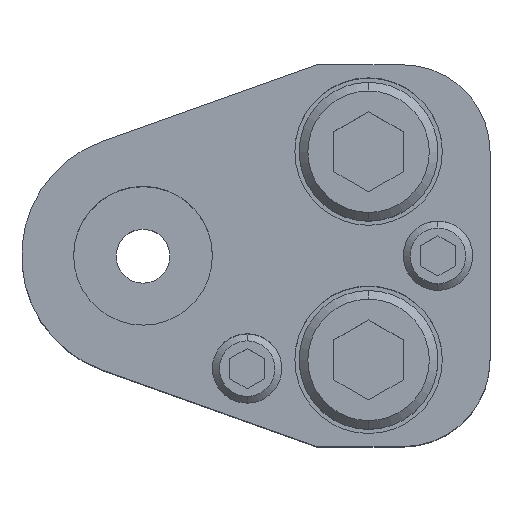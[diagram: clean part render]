
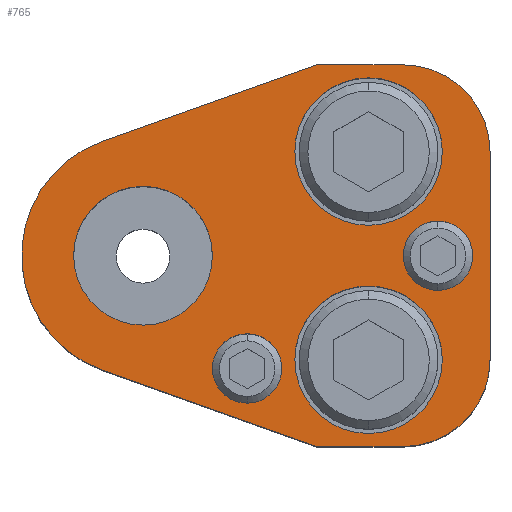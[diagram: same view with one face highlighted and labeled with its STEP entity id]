
A CAD part, top view. The second image highlights one B-rep face of the part: STEP entity #765.
In plain terms, the highlighted planar face has unit normal (0, 0, 1).
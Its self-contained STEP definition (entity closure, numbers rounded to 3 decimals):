
#144=FACE_BOUND('',#1151,.T.);
#145=FACE_BOUND('',#1152,.T.);
#146=FACE_BOUND('',#1153,.T.);
#147=FACE_BOUND('',#1154,.T.);
#148=FACE_BOUND('',#1155,.T.);
#149=FACE_BOUND('',#1156,.T.);
#352=LINE('',#4212,#556);
#357=LINE('',#4227,#561);
#360=LINE('',#4233,#564);
#365=LINE('',#4246,#569);
#377=LINE('',#4305,#581);
#384=LINE('',#4326,#588);
#556=VECTOR('',#3390,1.);
#561=VECTOR('',#3403,1.);
#564=VECTOR('',#3408,1.);
#569=VECTOR('',#3421,1.);
#581=VECTOR('',#3487,1.);
#588=VECTOR('',#3506,1.);
#765=ADVANCED_FACE('',(#144,#145,#146,#147,#148,#149),#863,.T.);
#863=PLANE('',#2873);
#1151=EDGE_LOOP('',(#1689,#1690,#1691,#1692,#1693,#1694,#1695,#1696,#1697));
#1152=EDGE_LOOP('',(#1698,#1699));
#1153=EDGE_LOOP('',(#1700,#1701));
#1154=EDGE_LOOP('',(#1702,#1703));
#1155=EDGE_LOOP('',(#1704,#1705));
#1156=EDGE_LOOP('',(#1706,#1707));
#1689=ORIENTED_EDGE('',*,*,#2341,.T.);
#1690=ORIENTED_EDGE('',*,*,#2345,.T.);
#1691=ORIENTED_EDGE('',*,*,#2348,.T.);
#1692=ORIENTED_EDGE('',*,*,#2386,.T.);
#1693=ORIENTED_EDGE('',*,*,#2400,.T.);
#1694=ORIENTED_EDGE('',*,*,#2397,.T.);
#1695=ORIENTED_EDGE('',*,*,#2351,.T.);
#1696=ORIENTED_EDGE('',*,*,#2355,.T.);
#1697=ORIENTED_EDGE('',*,*,#2358,.T.);
#1698=ORIENTED_EDGE('',*,*,#2404,.F.);
#1699=ORIENTED_EDGE('',*,*,#2405,.F.);
#1700=ORIENTED_EDGE('',*,*,#2406,.F.);
#1701=ORIENTED_EDGE('',*,*,#2407,.F.);
#1702=ORIENTED_EDGE('',*,*,#2381,.F.);
#1703=ORIENTED_EDGE('',*,*,#2377,.F.);
#1704=ORIENTED_EDGE('',*,*,#2375,.F.);
#1705=ORIENTED_EDGE('',*,*,#2371,.F.);
#1706=ORIENTED_EDGE('',*,*,#2408,.T.);
#1707=ORIENTED_EDGE('',*,*,#2409,.T.);
#2045=VERTEX_POINT('',#4211);
#2046=VERTEX_POINT('',#4213);
#2049=VERTEX_POINT('',#4220);
#2051=VERTEX_POINT('',#4226);
#2053=VERTEX_POINT('',#4232);
#2054=VERTEX_POINT('',#4234);
#2057=VERTEX_POINT('',#4241);
#2066=VERTEX_POINT('',#4273);
#2067=VERTEX_POINT('',#4274);
#2070=VERTEX_POINT('',#4286);
#2071=VERTEX_POINT('',#4287);
#2077=VERTEX_POINT('',#4304);
#2086=VERTEX_POINT('',#4327);
#2089=VERTEX_POINT('',#4345);
#2090=VERTEX_POINT('',#4346);
#2091=VERTEX_POINT('',#4349);
#2092=VERTEX_POINT('',#4350);
#2093=VERTEX_POINT('',#4353);
#2094=VERTEX_POINT('',#4354);
#2341=EDGE_CURVE('',#2046,#2045,#352,.T.);
#2345=EDGE_CURVE('',#2045,#2049,#2589,.T.);
#2348=EDGE_CURVE('',#2049,#2051,#357,.T.);
#2351=EDGE_CURVE('',#2054,#2053,#360,.T.);
#2355=EDGE_CURVE('',#2053,#2057,#2591,.T.);
#2358=EDGE_CURVE('',#2057,#2046,#365,.T.);
#2371=EDGE_CURVE('',#2066,#2067,#2601,.T.);
#2375=EDGE_CURVE('',#2067,#2066,#2603,.T.);
#2377=EDGE_CURVE('',#2070,#2071,#2605,.T.);
#2381=EDGE_CURVE('',#2071,#2070,#2607,.T.);
#2386=EDGE_CURVE('',#2051,#2077,#377,.T.);
#2397=EDGE_CURVE('',#2086,#2054,#384,.T.);
#2400=EDGE_CURVE('',#2077,#2086,#2614,.T.);
#2404=EDGE_CURVE('',#2089,#2090,#2615,.T.);
#2405=EDGE_CURVE('',#2090,#2089,#2616,.T.);
#2406=EDGE_CURVE('',#2091,#2092,#2617,.T.);
#2407=EDGE_CURVE('',#2092,#2091,#2618,.T.);
#2408=EDGE_CURVE('',#2093,#2094,#2619,.T.);
#2409=EDGE_CURVE('',#2094,#2093,#2620,.T.);
#2589=CIRCLE('',#2821,10.);
#2591=CIRCLE('',#2826,10.);
#2601=CIRCLE('',#2842,8.5);
#2603=CIRCLE('',#2845,8.5);
#2605=CIRCLE('',#2849,8.5);
#2607=CIRCLE('',#2852,8.5);
#2614=CIRCLE('',#2864,14.);
#2615=CIRCLE('',#2867,4.);
#2616=CIRCLE('',#2868,4.);
#2617=CIRCLE('',#2869,4.);
#2618=CIRCLE('',#2870,4.);
#2619=CIRCLE('',#2871,8.);
#2620=CIRCLE('',#2872,8.);
#2821=AXIS2_PLACEMENT_3D('',#4221,#3396,#3397);
#2826=AXIS2_PLACEMENT_3D('',#4242,#3414,#3415);
#2842=AXIS2_PLACEMENT_3D('',#4272,#3452,#3453);
#2845=AXIS2_PLACEMENT_3D('',#4281,#3460,#3461);
#2849=AXIS2_PLACEMENT_3D('',#4285,#3468,#3469);
#2852=AXIS2_PLACEMENT_3D('',#4294,#3476,#3477);
#2864=AXIS2_PLACEMENT_3D('',#4331,#3512,#3513);
#2867=AXIS2_PLACEMENT_3D('',#4344,#3520,#3521);
#2868=AXIS2_PLACEMENT_3D('',#4347,#3522,#3523);
#2869=AXIS2_PLACEMENT_3D('',#4348,#3524,#3525);
#2870=AXIS2_PLACEMENT_3D('',#4351,#3526,#3527);
#2871=AXIS2_PLACEMENT_3D('',#4352,#3528,#3529);
#2872=AXIS2_PLACEMENT_3D('',#4355,#3530,#3531);
#2873=AXIS2_PLACEMENT_3D('',#4356,#3532,#3533);
#3390=DIRECTION('',(0.,1.,0.));
#3396=DIRECTION('',(0.,0.,1.));
#3397=DIRECTION('',(-0.707,-0.707,0.));
#3403=DIRECTION('',(-1.,0.,0.));
#3408=DIRECTION('',(1.,0.,0.));
#3414=DIRECTION('',(0.,0.,1.));
#3415=DIRECTION('',(-0.707,0.707,0.));
#3421=DIRECTION('',(0.,1.,0.));
#3452=DIRECTION('',(0.,0.,1.));
#3453=DIRECTION('',(-1.,0.,0.));
#3460=DIRECTION('',(0.,0.,1.));
#3461=DIRECTION('',(1.,0.,0.));
#3468=DIRECTION('',(0.,0.,1.));
#3469=DIRECTION('',(-1.,0.,0.));
#3476=DIRECTION('',(0.,0.,1.));
#3477=DIRECTION('',(1.,0.,0.));
#3487=DIRECTION('',(-0.942,-0.336,0.));
#3506=DIRECTION('',(0.942,-0.336,0.));
#3512=DIRECTION('',(0.,0.,1.));
#3513=DIRECTION('',(1.,0.,0.));
#3520=DIRECTION('',(0.,0.,1.));
#3521=DIRECTION('',(1.,0.,0.));
#3522=DIRECTION('',(0.,0.,1.));
#3523=DIRECTION('',(-1.,0.,0.));
#3524=DIRECTION('',(0.,0.,1.));
#3525=DIRECTION('',(1.,0.,0.));
#3526=DIRECTION('',(0.,0.,1.));
#3527=DIRECTION('',(-1.,0.,0.));
#3528=DIRECTION('',(0.,0.,-1.));
#3529=DIRECTION('',(-1.,0.,0.));
#3530=DIRECTION('',(0.,0.,-1.));
#3531=DIRECTION('',(1.,0.,0.));
#3532=DIRECTION('',(0.,0.,1.));
#3533=DIRECTION('',(0.,-1.,0.));
#4211=CARTESIAN_POINT('',(40.,12.,40.));
#4212=CARTESIAN_POINT('',(40.,12.,40.));
#4213=CARTESIAN_POINT('',(40.,0.,40.));
#4220=CARTESIAN_POINT('',(30.,22.,40.));
#4221=CARTESIAN_POINT('',(30.,12.,40.));
#4226=CARTESIAN_POINT('',(20.,22.,40.));
#4227=CARTESIAN_POINT('',(20.,22.,40.));
#4232=CARTESIAN_POINT('',(30.,-22.,40.));
#4233=CARTESIAN_POINT('',(20.,-22.,40.));
#4234=CARTESIAN_POINT('',(20.,-22.,40.));
#4241=CARTESIAN_POINT('',(40.,-12.,40.));
#4242=CARTESIAN_POINT('',(30.,-12.,40.));
#4246=CARTESIAN_POINT('',(40.,-12.,40.));
#4272=CARTESIAN_POINT('',(26.,-12.,40.));
#4273=CARTESIAN_POINT('',(26.,-20.5,40.));
#4274=CARTESIAN_POINT('',(26.,-3.5,40.));
#4281=CARTESIAN_POINT('',(26.,-12.,40.));
#4285=CARTESIAN_POINT('',(26.,12.,40.));
#4286=CARTESIAN_POINT('',(26.,3.5,40.));
#4287=CARTESIAN_POINT('',(26.,20.5,40.));
#4294=CARTESIAN_POINT('',(26.,12.,40.));
#4304=CARTESIAN_POINT('',(-4.704,13.186,40.));
#4305=CARTESIAN_POINT('',(20.,22.,40.));
#4326=CARTESIAN_POINT('',(20.,-22.,40.));
#4327=CARTESIAN_POINT('',(-4.704,-13.186,40.));
#4331=CARTESIAN_POINT('',(0.,0.,40.));
#4344=CARTESIAN_POINT('',(34.,0.,40.));
#4345=CARTESIAN_POINT('',(34.,4.,40.));
#4346=CARTESIAN_POINT('',(34.,-4.,40.));
#4347=CARTESIAN_POINT('',(34.,0.,40.));
#4348=CARTESIAN_POINT('',(12.,-13.,40.));
#4349=CARTESIAN_POINT('',(12.,-9.,40.));
#4350=CARTESIAN_POINT('',(12.,-17.,40.));
#4351=CARTESIAN_POINT('',(12.,-13.,40.));
#4352=CARTESIAN_POINT('',(0.,0.,40.));
#4353=CARTESIAN_POINT('',(0.,8.,40.));
#4354=CARTESIAN_POINT('',(0.,-8.,40.));
#4355=CARTESIAN_POINT('',(0.,0.,40.));
#4356=CARTESIAN_POINT('',(40.,0.,40.));
